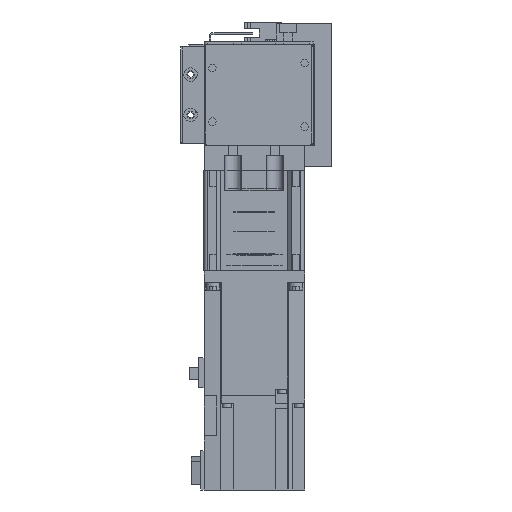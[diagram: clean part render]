
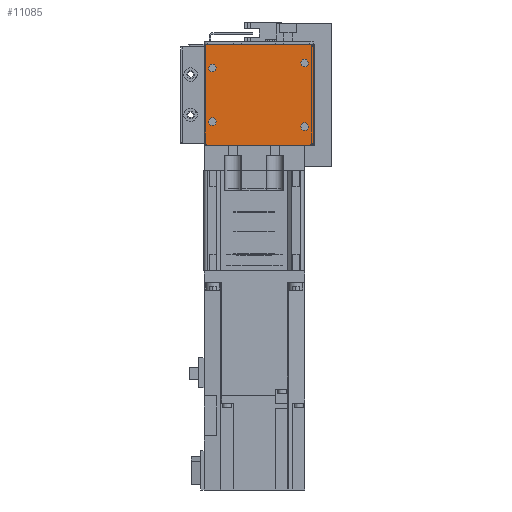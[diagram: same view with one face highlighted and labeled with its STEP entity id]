
A CAD part, left-side view. The second image highlights one B-rep face of the part: STEP entity #11085.
In plain terms, the highlighted planar face has unit normal (-1, 0, 0) as drawn and (0, 0, 1) by its records, which use the part's own axes.
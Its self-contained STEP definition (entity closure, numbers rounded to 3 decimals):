
#533=CIRCLE('',#12036,2.);
#535=CIRCLE('',#12040,2.);
#537=CIRCLE('',#12044,2.);
#538=CIRCLE('',#12047,2.25);
#540=CIRCLE('',#12050,2.25);
#542=CIRCLE('',#12053,2.25);
#544=CIRCLE('',#12056,2.25);
#547=CIRCLE('',#12060,2.);
#1769=ORIENTED_EDGE('',*,*,#4333,.F.);
#1770=ORIENTED_EDGE('',*,*,#4331,.F.);
#1771=ORIENTED_EDGE('',*,*,#4329,.F.);
#1772=ORIENTED_EDGE('',*,*,#4327,.F.);
#1773=ORIENTED_EDGE('',*,*,#4307,.T.);
#1774=ORIENTED_EDGE('',*,*,#4311,.T.);
#1775=ORIENTED_EDGE('',*,*,#4314,.T.);
#1776=ORIENTED_EDGE('',*,*,#4317,.T.);
#1777=ORIENTED_EDGE('',*,*,#4320,.T.);
#1778=ORIENTED_EDGE('',*,*,#4323,.T.);
#1779=ORIENTED_EDGE('',*,*,#4326,.T.);
#1780=ORIENTED_EDGE('',*,*,#4336,.T.);
#4307=EDGE_CURVE('',#5709,#5708,#6729,.T.);
#4311=EDGE_CURVE('',#5708,#5711,#533,.T.);
#4314=EDGE_CURVE('',#5711,#5713,#6734,.T.);
#4317=EDGE_CURVE('',#5713,#5715,#535,.T.);
#4320=EDGE_CURVE('',#5715,#5717,#6738,.T.);
#4323=EDGE_CURVE('',#5717,#5719,#537,.T.);
#4326=EDGE_CURVE('',#5719,#5721,#6742,.T.);
#4327=EDGE_CURVE('',#5722,#5722,#538,.T.);
#4329=EDGE_CURVE('',#5724,#5724,#540,.T.);
#4331=EDGE_CURVE('',#5726,#5726,#542,.T.);
#4333=EDGE_CURVE('',#5728,#5728,#544,.T.);
#4336=EDGE_CURVE('',#5721,#5709,#547,.T.);
#5708=VERTEX_POINT('',#17083);
#5709=VERTEX_POINT('',#17085);
#5711=VERTEX_POINT('',#17091);
#5713=VERTEX_POINT('',#17097);
#5715=VERTEX_POINT('',#17103);
#5717=VERTEX_POINT('',#17109);
#5719=VERTEX_POINT('',#17115);
#5721=VERTEX_POINT('',#17121);
#5722=VERTEX_POINT('',#17125);
#5724=VERTEX_POINT('',#17130);
#5726=VERTEX_POINT('',#17135);
#5728=VERTEX_POINT('',#17140);
#6729=LINE('',#17084,#7821);
#6734=LINE('',#17098,#7826);
#6738=LINE('',#17110,#7830);
#6742=LINE('',#17122,#7834);
#7821=VECTOR('',#13857,1000.);
#7826=VECTOR('',#13870,1000.);
#7830=VECTOR('',#13882,1000.);
#7834=VECTOR('',#13894,1000.);
#9009=EDGE_LOOP('',(#1769));
#9010=EDGE_LOOP('',(#1770));
#9011=EDGE_LOOP('',(#1771));
#9012=EDGE_LOOP('',(#1772));
#9013=EDGE_LOOP('',(#1773,#1774,#1775,#1776,#1777,#1778,#1779,#1780));
#9907=FACE_BOUND('',#9009,.T.);
#9908=FACE_BOUND('',#9010,.T.);
#9909=FACE_BOUND('',#9011,.T.);
#9910=FACE_BOUND('',#9012,.T.);
#9911=FACE_BOUND('',#9013,.T.);
#10553=PLANE('',#12061);
#11085=ADVANCED_FACE('',(#9907,#9908,#9909,#9910,#9911),#10553,.T.);
#12036=AXIS2_PLACEMENT_3D('',#17092,#13864,#13865);
#12040=AXIS2_PLACEMENT_3D('',#17104,#13876,#13877);
#12044=AXIS2_PLACEMENT_3D('',#17116,#13888,#13889);
#12047=AXIS2_PLACEMENT_3D('',#17124,#13897,#13898);
#12050=AXIS2_PLACEMENT_3D('',#17129,#13903,#13904);
#12053=AXIS2_PLACEMENT_3D('',#17134,#13909,#13910);
#12056=AXIS2_PLACEMENT_3D('',#17139,#13915,#13916);
#12060=AXIS2_PLACEMENT_3D('',#17145,#13923,#13924);
#12061=AXIS2_PLACEMENT_3D('',#17146,#13925,#13926);
#13857=DIRECTION('',(0.,-1.,0.));
#13864=DIRECTION('',(0.,0.,1.));
#13865=DIRECTION('',(1.,0.,0.));
#13870=DIRECTION('',(1.,0.,0.));
#13876=DIRECTION('',(0.,0.,1.));
#13877=DIRECTION('',(1.,0.,0.));
#13882=DIRECTION('',(0.,1.,0.));
#13888=DIRECTION('',(0.,0.,1.));
#13889=DIRECTION('',(1.,0.,0.));
#13894=DIRECTION('',(-1.,0.,0.));
#13897=DIRECTION('',(0.,0.,1.));
#13898=DIRECTION('',(1.,0.,0.));
#13903=DIRECTION('',(0.,0.,1.));
#13904=DIRECTION('',(1.,0.,0.));
#13909=DIRECTION('',(0.,0.,1.));
#13910=DIRECTION('',(1.,0.,0.));
#13915=DIRECTION('',(0.,0.,1.));
#13916=DIRECTION('',(1.,0.,0.));
#13923=DIRECTION('',(0.,0.,1.));
#13924=DIRECTION('',(1.,0.,0.));
#13925=DIRECTION('',(0.,0.,1.));
#13926=DIRECTION('',(1.,0.,0.));
#17083=CARTESIAN_POINT('',(-30.,-30.5,1.5));
#17084=CARTESIAN_POINT('',(-30.,30.5,1.5));
#17085=CARTESIAN_POINT('',(-30.,30.5,1.5));
#17091=CARTESIAN_POINT('',(-28.,-32.5,1.5));
#17092=CARTESIAN_POINT('',(-28.,-30.5,1.5));
#17097=CARTESIAN_POINT('',(28.,-32.5,1.5));
#17098=CARTESIAN_POINT('',(-28.,-32.5,1.5));
#17103=CARTESIAN_POINT('',(30.,-30.5,1.5));
#17104=CARTESIAN_POINT('',(28.,-30.5,1.5));
#17109=CARTESIAN_POINT('',(30.,30.5,1.5));
#17110=CARTESIAN_POINT('',(30.,-30.5,1.5));
#17115=CARTESIAN_POINT('',(28.,32.5,1.5));
#17116=CARTESIAN_POINT('',(28.,30.5,1.5));
#17121=CARTESIAN_POINT('',(-28.,32.5,1.5));
#17122=CARTESIAN_POINT('',(28.,32.5,1.5));
#17124=CARTESIAN_POINT('',(19.,27.5,1.5));
#17125=CARTESIAN_POINT('',(21.25,27.5,1.5));
#17129=CARTESIAN_POINT('',(16.,-27.5,1.5));
#17130=CARTESIAN_POINT('',(18.25,-27.5,1.5));
#17134=CARTESIAN_POINT('',(-16.,-27.5,1.5));
#17135=CARTESIAN_POINT('',(-13.75,-27.5,1.5));
#17139=CARTESIAN_POINT('',(-19.,27.5,1.5));
#17140=CARTESIAN_POINT('',(-16.75,27.5,1.5));
#17145=CARTESIAN_POINT('',(-28.,30.5,1.5));
#17146=CARTESIAN_POINT('',(-28.,-30.5,1.5));
